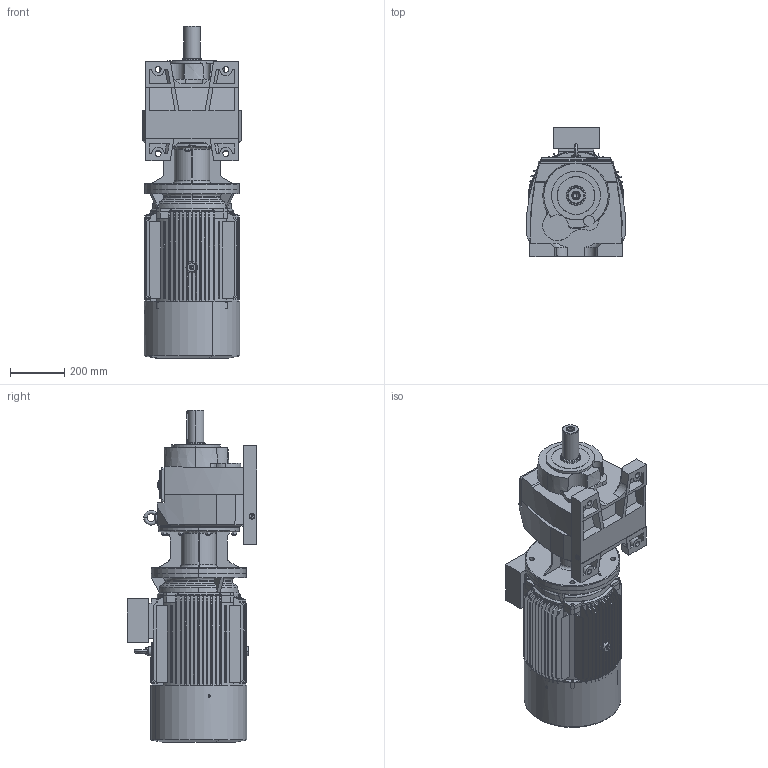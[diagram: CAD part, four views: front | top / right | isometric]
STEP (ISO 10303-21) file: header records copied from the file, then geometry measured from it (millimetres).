
FILE_DESCRIPTION (( 'STEP AP203' ), '1' );
FILE_NAME ('MV572-MV573-M3-180L.STEP', '2019-07-24T09:02:40', ( '' ), ( '' ), 'SwSTEP 2.0', 'SolidWorks 2012', '' );
FILE_SCHEMA (( 'CONFIG_CONTROL_DESIGN' ));
Length unit declared in the file: millimetre
Products named in the file (12): ML3A_Varsayìlan; 53180B5_Varsayìlan; M573_Varsayìlan; MV572-MV573-M3-180L; Y2-180-4.6.8+ª-¯ª­-È®+_-++ñ; M3-180L-FF-B5; Y2-180-4.6.8-ª+---®+_-++ñ; Y2-180C++A+¦-¯ª¦+¦_-++ñ; Y2-180+¦i-_-++ñ; Eyebolts GB_GB_FASTENER_SCREWS_FRS M12; Y2-180LB5+À+¿_-++ñ; MN_57_3_0_A-B18_B5_ML3A_0_0_0_0_0_0_0_0_0_0_0_0_M1
Assembly tree (11 placements, depth 3):
  MV572-MV573-M3-180L
    MN_57_3_0_A-B18_B5_ML3A_0_0_0_0_0_0_0_0_0_0_0_0_M1
      M573_Varsayìlan
      53180B5_Varsayìlan
      ML3A_Varsayìlan
    M3-180L-FF-B5
      Eyebolts GB_GB_FASTENER_SCREWS_FRS M12
      Y2-180LB5+À+¿_-++ñ
      Y2-180+¦i-_-++ñ
      Y2-180-4.6.8-ª+---®+_-++ñ
      Y2-180C++A+¦-¯ª¦+¦_-++ñ
      Y2-180-4.6.8+ª-¯ª­-È®+_-++ñ
Bounding box: 366 x 477.89 x 1224.5 mm (x, y, z)
Volume: 43639764.7 mm3; surface area: 4174027.1 mm2
Topology: 10 solids, 10 shells, 1575 faces, 4049 edges, 2596 vertices
Faces by surface type: plane 548, cylinder 442, cone 435, bspline 118, torus 32
Entity records: 58890 total; most frequent: CARTESIAN_POINT 20059, ORIENTED_EDGE 8094, DIRECTION 7619, EDGE_CURVE 4047, AXIS2_PLACEMENT_3D 2953, VERTEX_POINT 2596, EDGE_LOOP 1757, LINE 1713
